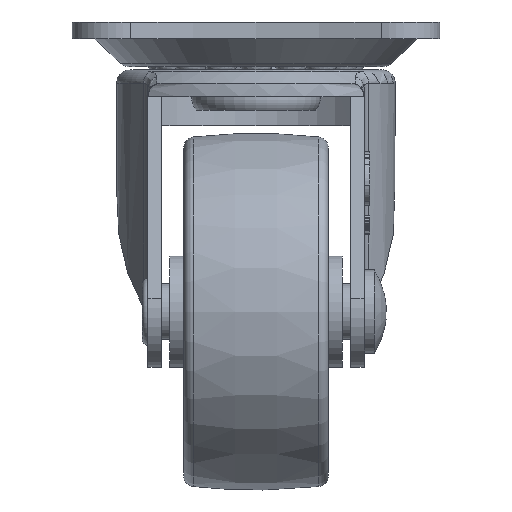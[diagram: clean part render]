
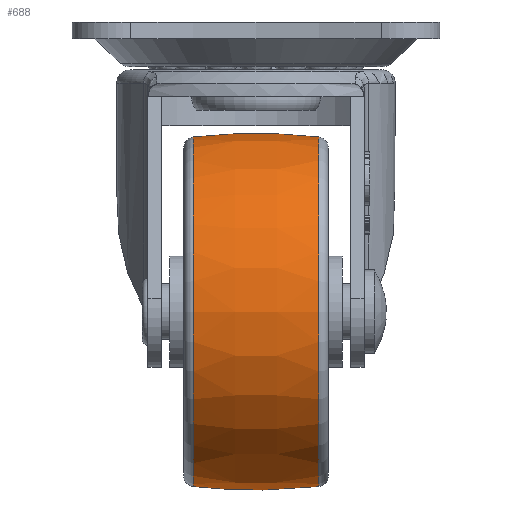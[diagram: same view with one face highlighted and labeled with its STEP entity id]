
A CAD part, left-side view. The second image highlights one B-rep face of the part: STEP entity #688.
In plain terms, the highlighted free-form (B-spline) face has degree [3, 3] with [4, 7] control points.
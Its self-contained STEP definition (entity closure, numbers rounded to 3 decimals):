
#57=(
BOUNDED_SURFACE()
B_SPLINE_SURFACE(3,3,((#9588,#9589,#9590,#9591,#9592,#9593,#9594),(#9595,
#9596,#9597,#9598,#9599,#9600,#9601),(#9602,#9603,#9604,#9605,#9606,#9607,
#9608),(#9609,#9610,#9611,#9612,#9613,#9614,#9615)),.UNSPECIFIED.,.F.,.T.,
 .F.)
B_SPLINE_SURFACE_WITH_KNOTS((4,4),(1,3,3,3,1),(0.,1.),(-0.5,0.,0.5,1.,1.5),
 .UNSPECIFIED.)
GEOMETRIC_REPRESENTATION_ITEM()
RATIONAL_B_SPLINE_SURFACE(((1.,0.333,0.333,1.,0.333,
0.333,1.),(0.996,0.332,0.332,
0.996,0.332,0.332,0.996),
(0.996,0.332,0.332,0.996,
0.332,0.332,0.996),(1.,0.333,
0.333,1.,0.333,0.333,1.)))
REPRESENTATION_ITEM('')
SURFACE()
);
#688=ADVANCED_FACE('',(#1843,#1844),#57,.T.);
#1063=CIRCLE('',#5743,15.684);
#1068=CIRCLE('',#5750,15.684);
#1843=FACE_BOUND('',#2292,.T.);
#1844=FACE_BOUND('',#2293,.T.);
#2292=EDGE_LOOP('',(#3754));
#2293=EDGE_LOOP('',(#3755));
#3754=ORIENTED_EDGE('',*,*,#5010,.T.);
#3755=ORIENTED_EDGE('',*,*,#5005,.T.);
#4273=VERTEX_POINT('',#9554);
#4278=VERTEX_POINT('',#9566);
#5005=EDGE_CURVE('',#4273,#4273,#1063,.T.);
#5010=EDGE_CURVE('',#4278,#4278,#1068,.T.);
#5743=AXIS2_PLACEMENT_3D('',#9553,#6991,#6992);
#5750=AXIS2_PLACEMENT_3D('',#9565,#7005,#7006);
#6991=DIRECTION('',(0.,1.,0.));
#6992=DIRECTION('',(0.,0.,1.));
#7005=DIRECTION('',(0.,-1.,0.));
#7006=DIRECTION('',(0.,0.,-1.));
#9553=CARTESIAN_POINT('',(-14.,-5.612,-26.));
#9554=CARTESIAN_POINT('',(-14.,-5.612,-10.316));
#9565=CARTESIAN_POINT('',(-14.,5.612,-26.));
#9566=CARTESIAN_POINT('',(-14.,5.612,-41.684));
#9588=CARTESIAN_POINT('',(-14.,-5.612,-41.684));
#9589=CARTESIAN_POINT('',(17.368,-5.612,-41.684));
#9590=CARTESIAN_POINT('',(17.368,-5.612,-10.316));
#9591=CARTESIAN_POINT('',(-14.,-5.612,-10.316));
#9592=CARTESIAN_POINT('',(-45.368,-5.612,-10.316));
#9593=CARTESIAN_POINT('',(-45.368,-5.612,-41.684));
#9594=CARTESIAN_POINT('',(-14.,-5.612,-41.684));
#9595=CARTESIAN_POINT('',(-14.,-1.879,-42.106));
#9596=CARTESIAN_POINT('',(18.212,-1.879,-42.106));
#9597=CARTESIAN_POINT('',(18.212,-1.879,-9.894));
#9598=CARTESIAN_POINT('',(-14.,-1.879,-9.894));
#9599=CARTESIAN_POINT('',(-46.212,-1.879,-9.894));
#9600=CARTESIAN_POINT('',(-46.212,-1.879,-42.106));
#9601=CARTESIAN_POINT('',(-14.,-1.879,-42.106));
#9602=CARTESIAN_POINT('',(-14.,1.879,-42.106));
#9603=CARTESIAN_POINT('',(18.212,1.879,-42.106));
#9604=CARTESIAN_POINT('',(18.212,1.879,-9.894));
#9605=CARTESIAN_POINT('',(-14.,1.879,-9.894));
#9606=CARTESIAN_POINT('',(-46.212,1.879,-9.894));
#9607=CARTESIAN_POINT('',(-46.212,1.879,-42.106));
#9608=CARTESIAN_POINT('',(-14.,1.879,-42.106));
#9609=CARTESIAN_POINT('',(-14.,5.612,-41.684));
#9610=CARTESIAN_POINT('',(17.368,5.612,-41.684));
#9611=CARTESIAN_POINT('',(17.368,5.612,-10.316));
#9612=CARTESIAN_POINT('',(-14.,5.612,-10.316));
#9613=CARTESIAN_POINT('',(-45.368,5.612,-10.316));
#9614=CARTESIAN_POINT('',(-45.368,5.612,-41.684));
#9615=CARTESIAN_POINT('',(-14.,5.612,-41.684));
